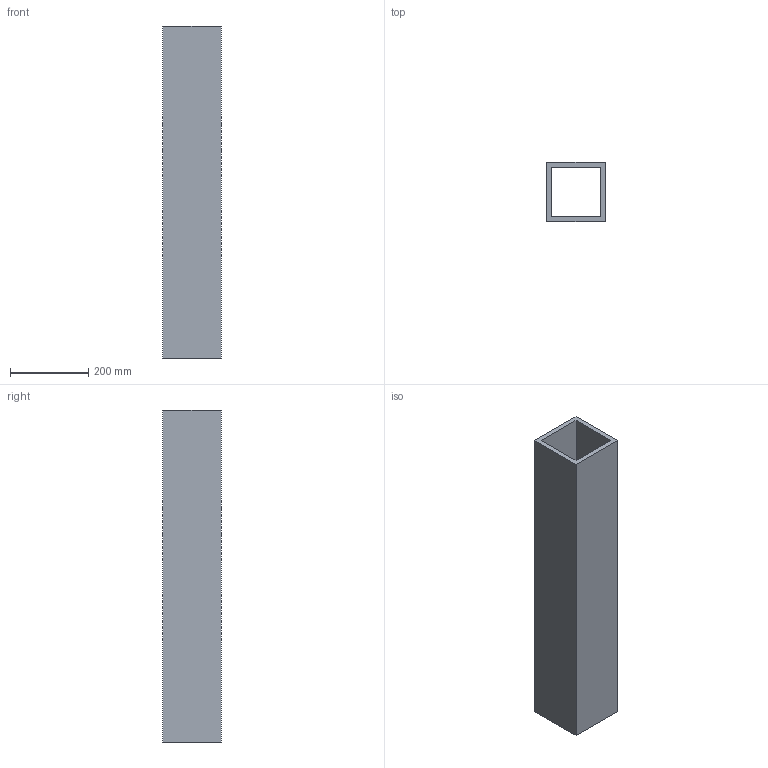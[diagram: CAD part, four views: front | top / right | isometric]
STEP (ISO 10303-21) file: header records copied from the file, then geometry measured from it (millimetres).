
FILE_DESCRIPTION(('Open CASCADE Model'),'2;1');
FILE_NAME('Open CASCADE Shape Model','2026-10-15T15:10:04',('Author'),( 'Open CASCADE'),'Open CASCADE STEP processor 8.0','Open CASCADE 8.0' ,'Unknown');
FILE_SCHEMA(('AUTOMOTIVE_DESIGN { 1 0 10303 214 1 1 1 1 }'));
Length unit declared in the file: millimetre
Products named in the file (1): SHS150x150x12_L850000_P05 35
Bounding box: 150 x 150 x 850 mm (x, y, z)
Volume: 5630400 mm3; surface area: 951648 mm2
Topology: 1 solids, 1 shells, 10 faces, 24 edges, 16 vertices
Faces by surface type: plane 10
Entity records: 614 total; most frequent: CARTESIAN_POINT 99, DIRECTION 94, LINE 72, VECTOR 72, ORIENTED_EDGE 48, PCURVE 48, DEFINITIONAL_REPRESENTATION 48, EDGE_CURVE 24
